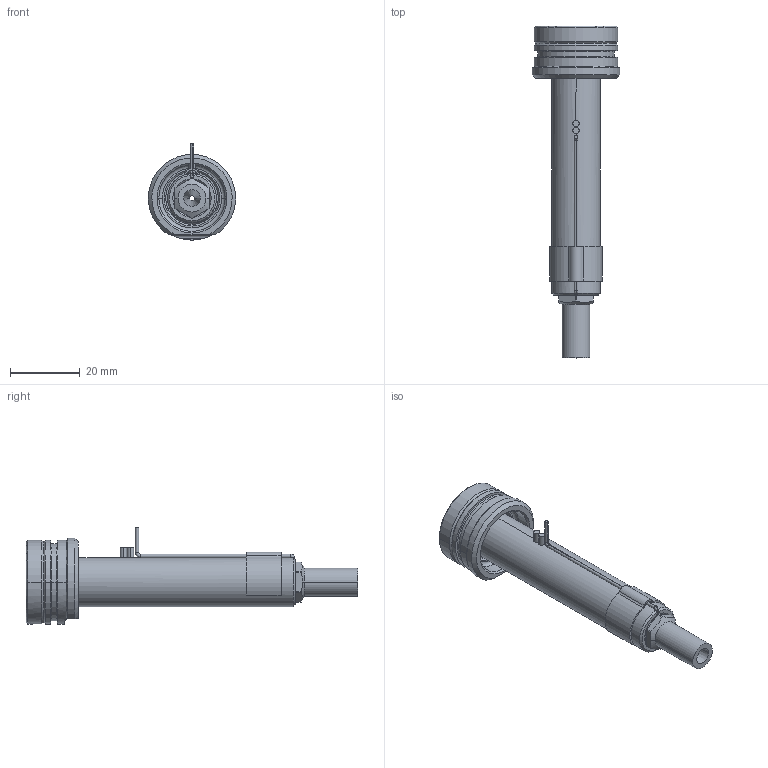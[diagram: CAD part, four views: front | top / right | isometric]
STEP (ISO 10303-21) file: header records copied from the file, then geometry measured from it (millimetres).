
FILE_DESCRIPTION((''),'2;1');
FILE_NAME('EO04_SG_ESG_070_SW','2024-02-19T12:13:15',('sundharh'),(''),'CREO PARAMETRIC BY PTC INC, 2023154','CREO PARAMETRIC BY PTC INC, 2023154','');
FILE_SCHEMA(('CONFIG_CONTROL_DESIGN'));
Length unit declared in the file: millimetre
Products named in the file (1): EO04_SG_ESG_070_SW
Bounding box: 24.99 x 95 x 27.5 mm (x, y, z)
Volume: 15481.8 mm3; surface area: 8102.1 mm2
Topology: 2 solids, 2 shells, 182 faces, 461 edges, 277 vertices
Faces by surface type: cylinder 67, plane 45, cone 34, torus 22, bspline 11, sphere 3
Entity records: 6366 total; most frequent: CARTESIAN_POINT 1971, DIRECTION 952, ORIENTED_EDGE 906, EDGE_CURVE 453, AXIS2_PLACEMENT_3D 396, VERTEX_POINT 277, CIRCLE 225, EDGE_LOOP 196
